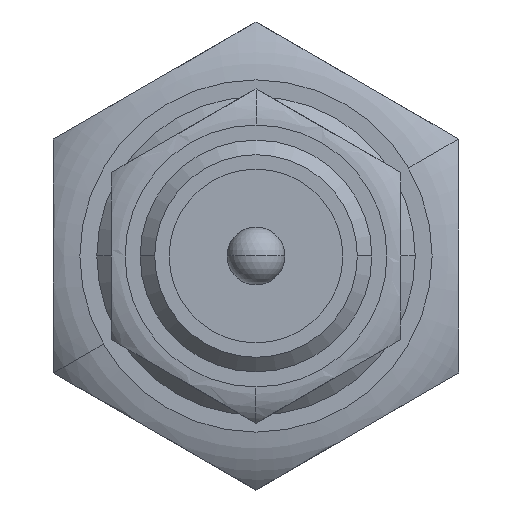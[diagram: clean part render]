
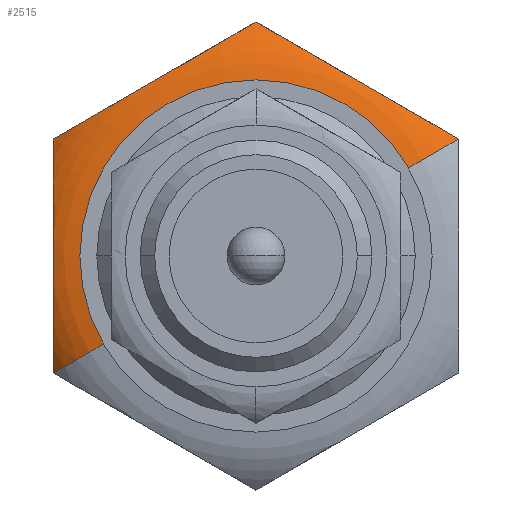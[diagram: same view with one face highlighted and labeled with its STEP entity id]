
A CAD part, front view. The second image highlights one B-rep face of the part: STEP entity #2515.
In plain terms, the highlighted toroidal (fillet/blend) face has major radius 5.633 mm and minor radius 3.429 mm.
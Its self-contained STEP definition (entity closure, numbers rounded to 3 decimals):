
#19 = CARTESIAN_POINT ( 'NONE',  ( 0.551, 3.281, -7.765 ) ) ;
#101 = CARTESIAN_POINT ( 'NONE',  ( 1.422, 3.546, -7.262 ) ) ;
#187 = CARTESIAN_POINT ( 'NONE',  ( 1.126, 3.474, -7.433 ) ) ;
#470 = VERTEX_POINT ( 'NONE', #11239 ) ;
#555 = CARTESIAN_POINT ( 'NONE',  ( 0., 3., 8.083 ) ) ;
#675 = CIRCLE ( 'NONE', #7150, 3.429 ) ;
#1273 = AXIS2_PLACEMENT_3D ( 'NONE', #2994, #10610, #4196 ) ;
#1299 = CARTESIAN_POINT ( 'NONE',  ( 6.45, 3.28, -4.359 ) ) ;
#1541 = DIRECTION ( 'NONE',  ( 0., 0., 1. ) ) ;
#1954 = B_SPLINE_CURVE_WITH_KNOTS ( 'NONE', 3,
 ( #4784, #14744, #3439, #3258, #9942, #3088, #2087, #8600, #13394, #11046, #16192, #12391, #5962, #12147, #13743, #555 ),
 .UNSPECIFIED., .F., .F.,
 ( 4, 2, 2, 2, 2, 2, 2, 4 ),
 ( 0., 0.001, 0.002, 0.004, 0.005, 0.006, 0.007, 0.008 ),
 .UNSPECIFIED. ) ;
#1973 = DIRECTION ( 'NONE',  ( 1., 0., 0. ) ) ;
#2087 = CARTESIAN_POINT ( 'NONE',  ( 4.093, 3.746, 5.72 ) ) ;
#2282 = CARTESIAN_POINT ( 'NONE',  ( 7., 3.706, -1.379 ) ) ;
#2452 = ORIENTED_EDGE ( 'NONE', *, *, #13170, .T. ) ;
#2515 = ADVANCED_FACE ( 'NONE', ( #16002 ), #8283, .T. ) ;
#2523 = B_SPLINE_CURVE_WITH_KNOTS ( 'NONE', 3,
 ( #7969, #11690, #19, #187, #101, #2716, #5254, #10419, #13111, #15566, #4000, #9165, #11864, #1299, #5340, #14292 ),
 .UNSPECIFIED., .F., .F.,
 ( 4, 2, 2, 2, 2, 2, 2, 4 ),
 ( 0., 0.001, 0.002, 0.004, 0.005, 0.006, 0.007, 0.008 ),
 .UNSPECIFIED. ) ;
#2716 = CARTESIAN_POINT ( 'NONE',  ( 2.312, 3.707, -6.748 ) ) ;
#2994 = CARTESIAN_POINT ( 'NONE',  ( 0., 0.601, 0. ) ) ;
#3088 = CARTESIAN_POINT ( 'NONE',  ( 4.688, 3.707, 5.376 ) ) ;
#3127 = DIRECTION ( 'NONE',  ( -1., 0., 0. ) ) ;
#3258 = CARTESIAN_POINT ( 'NONE',  ( 5.874, 3.474, 4.691 ) ) ;
#3439 = CARTESIAN_POINT ( 'NONE',  ( 6.449, 3.281, 4.359 ) ) ;
#3754 = ORIENTED_EDGE ( 'NONE', *, *, #7762, .F. ) ;
#3799 = CARTESIAN_POINT ( 'NONE',  ( 7., 3.705, 1.384 ) ) ;
#3830 = VERTEX_POINT ( 'NONE', #6821 ) ;
#4000 = CARTESIAN_POINT ( 'NONE',  ( 4.995, 3.652, -5.199 ) ) ;
#4196 = DIRECTION ( 'NONE',  ( 0., 0., 1. ) ) ;
#4784 = CARTESIAN_POINT ( 'NONE',  ( 7., 3., 4.041 ) ) ;
#5147 = ORIENTED_EDGE ( 'NONE', *, *, #14673, .F. ) ;
#5254 = CARTESIAN_POINT ( 'NONE',  ( 2.907, 3.746, -6.405 ) ) ;
#5340 = CARTESIAN_POINT ( 'NONE',  ( 6.729, 3.16, -4.198 ) ) ;
#5485 = ORIENTED_EDGE ( 'NONE', *, *, #14004, .F. ) ;
#5962 = CARTESIAN_POINT ( 'NONE',  ( 1.122, 3.473, 7.435 ) ) ;
#6238 = CARTESIAN_POINT ( 'NONE',  ( 7., 3., -4.041 ) ) ;
#6247 = VERTEX_POINT ( 'NONE', #12307 ) ;
#6394 = CARTESIAN_POINT ( 'NONE',  ( 7., 3., 4.041 ) ) ;
#6821 = CARTESIAN_POINT ( 'NONE',  ( 0., 3., 8.083 ) ) ;
#6926 = CARTESIAN_POINT ( 'NONE',  ( 7., 3., -4.041 ) ) ;
#7125 = DIRECTION ( 'NONE',  ( 0., 0., -1. ) ) ;
#7150 = AXIS2_PLACEMENT_3D ( 'NONE', #14556, #1973, #7125 ) ;
#7434 = CARTESIAN_POINT ( 'NONE',  ( 7., 3.746, -0.689 ) ) ;
#7665 = EDGE_LOOP ( 'NONE', ( #12131, #2452, #5147, #9704, #5485, #3754 ) ) ;
#7762 = EDGE_CURVE ( 'NONE', #15777, #9982, #8864, .T. ) ;
#7969 = CARTESIAN_POINT ( 'NONE',  ( 0., 3., -8.083 ) ) ;
#8283 = TOROIDAL_SURFACE ( 'NONE', #1273, 5.633, 3.429 ) ;
#8600 = CARTESIAN_POINT ( 'NONE',  ( 3.2, 3.745, 6.235 ) ) ;
#8791 = CARTESIAN_POINT ( 'NONE',  ( 7., 3.157, -3.733 ) ) ;
#8864 = B_SPLINE_CURVE_WITH_KNOTS ( 'NONE', 3,
 ( #6238, #8791, #12588, #16553, #16634, #2282, #7434, #8876, #3799, #11407, #16477, #10134, #8955, #12503 ),
 .UNSPECIFIED., .F., .F.,
 ( 4, 2, 2, 2, 2, 2, 4 ),
 ( 0.025, 0.026, 0.027, 0.029, 0.031, 0.032, 0.033 ),
 .UNSPECIFIED. ) ;
#8876 = CARTESIAN_POINT ( 'NONE',  ( 7., 3.745, 0.697 ) ) ;
#8955 = CARTESIAN_POINT ( 'NONE',  ( 7., 3.158, 3.733 ) ) ;
#9080 = CARTESIAN_POINT ( 'NONE',  ( 0., 4., 0. ) ) ;
#9165 = CARTESIAN_POINT ( 'NONE',  ( 5.587, 3.544, -4.857 ) ) ;
#9278 = VERTEX_POINT ( 'NONE', #11188 ) ;
#9565 = CARTESIAN_POINT ( 'NONE',  ( 0., 0.601, 5.633 ) ) ;
#9704 = ORIENTED_EDGE ( 'NONE', *, *, #13527, .F. ) ;
#9942 = CARTESIAN_POINT ( 'NONE',  ( 5.578, 3.546, 4.863 ) ) ;
#9982 = VERTEX_POINT ( 'NONE', #6394 ) ;
#10134 = CARTESIAN_POINT ( 'NONE',  ( 7., 3.282, 3.403 ) ) ;
#10154 = CIRCLE ( 'NONE', #13657, 6.083 ) ;
#10419 = CARTESIAN_POINT ( 'NONE',  ( 3.8, 3.745, -5.889 ) ) ;
#10610 = DIRECTION ( 'NONE',  ( 0., 1., 0. ) ) ;
#11046 = CARTESIAN_POINT ( 'NONE',  ( 2.305, 3.688, 6.752 ) ) ;
#11188 = CARTESIAN_POINT ( 'NONE',  ( 0., 4., -6.083 ) ) ;
#11239 = CARTESIAN_POINT ( 'NONE',  ( 0., 4., 6.083 ) ) ;
#11407 = CARTESIAN_POINT ( 'NONE',  ( 7., 3.546, 2.401 ) ) ;
#11690 = CARTESIAN_POINT ( 'NONE',  ( 0.27, 3.159, -7.927 ) ) ;
#11864 = CARTESIAN_POINT ( 'NONE',  ( 5.878, 3.473, -4.689 ) ) ;
#12131 = ORIENTED_EDGE ( 'NONE', *, *, #14609, .F. ) ;
#12147 = CARTESIAN_POINT ( 'NONE',  ( 0.55, 3.28, 7.765 ) ) ;
#12307 = CARTESIAN_POINT ( 'NONE',  ( 0., 3., -8.083 ) ) ;
#12391 = CARTESIAN_POINT ( 'NONE',  ( 1.413, 3.544, 7.267 ) ) ;
#12503 = CARTESIAN_POINT ( 'NONE',  ( 7., 3., 4.041 ) ) ;
#12588 = CARTESIAN_POINT ( 'NONE',  ( 7., 3.279, -3.41 ) ) ;
#13111 = CARTESIAN_POINT ( 'NONE',  ( 4.098, 3.735, -5.717 ) ) ;
#13170 = EDGE_CURVE ( 'NONE', #6247, #9278, #675, .T. ) ;
#13394 = CARTESIAN_POINT ( 'NONE',  ( 2.902, 3.735, 6.408 ) ) ;
#13527 = EDGE_CURVE ( 'NONE', #3830, #470, #15782, .T. ) ;
#13606 = DIRECTION ( 'NONE',  ( 0., 0., 1. ) ) ;
#13657 = AXIS2_PLACEMENT_3D ( 'NONE', #9080, #14369, #1541 ) ;
#13743 = CARTESIAN_POINT ( 'NONE',  ( 0.271, 3.16, 7.927 ) ) ;
#14004 = EDGE_CURVE ( 'NONE', #9982, #3830, #1954, .T. ) ;
#14292 = CARTESIAN_POINT ( 'NONE',  ( 7., 3., -4.041 ) ) ;
#14369 = DIRECTION ( 'NONE',  ( 0., 1., 0. ) ) ;
#14556 = CARTESIAN_POINT ( 'NONE',  ( 0., 0.601, -5.633 ) ) ;
#14609 = EDGE_CURVE ( 'NONE', #6247, #15777, #2523, .T. ) ;
#14673 = EDGE_CURVE ( 'NONE', #470, #9278, #10154, .T. ) ;
#14744 = CARTESIAN_POINT ( 'NONE',  ( 6.73, 3.159, 4.197 ) ) ;
#15516 = AXIS2_PLACEMENT_3D ( 'NONE', #9565, #3127, #13606 ) ;
#15566 = CARTESIAN_POINT ( 'NONE',  ( 4.695, 3.688, -5.372 ) ) ;
#15777 = VERTEX_POINT ( 'NONE', #6926 ) ;
#15782 = CIRCLE ( 'NONE', #15516, 3.429 ) ;
#16002 = FACE_OUTER_BOUND ( 'NONE', #7665, .T. ) ;
#16192 = CARTESIAN_POINT ( 'NONE',  ( 2.005, 3.652, 6.925 ) ) ;
#16477 = CARTESIAN_POINT ( 'NONE',  ( 7., 3.475, 2.737 ) ) ;
#16553 = CARTESIAN_POINT ( 'NONE',  ( 7., 3.474, -2.741 ) ) ;
#16634 = CARTESIAN_POINT ( 'NONE',  ( 7., 3.546, -2.401 ) ) ;
